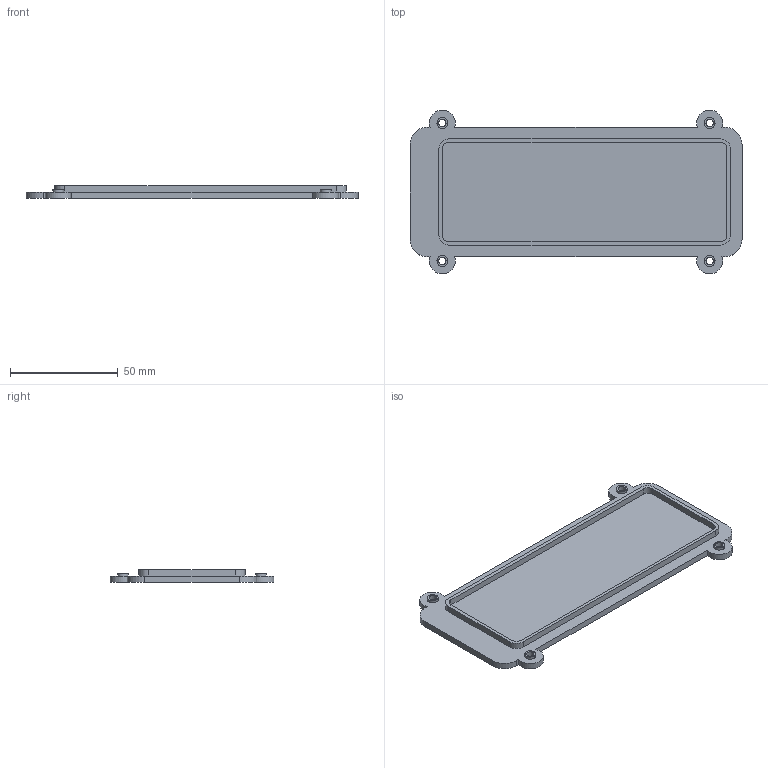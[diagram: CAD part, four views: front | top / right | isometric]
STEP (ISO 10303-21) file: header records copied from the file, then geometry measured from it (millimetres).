
FILE_DESCRIPTION(('Open CASCADE Model'),'2;1');
FILE_NAME('Open CASCADE Shape Model','2026-10-13T15:40:05',('Author'),( 'Open CASCADE'),'Open CASCADE STEP processor 7.9','Open CASCADE 7.9' ,'Unknown');
FILE_SCHEMA(('AUTOMOTIVE_DESIGN { 1 0 10303 214 1 1 1 1 }'));
Length unit declared in the file: millimetre
Products named in the file (1): Open CASCADE STEP translator 7.9 2
Bounding box: 154 x 76 x 6 mm (x, y, z)
Volume: 30166.3 mm3; surface area: 22710.5 mm2
Topology: 1 solids, 1 shells, 48 faces, 120 edges, 80 vertices
Faces by surface type: plane 24, cylinder 24
Full cylindrical faces by diameter (mm): 3.4 x4, 5 x4
Entity records: 3073 total; most frequent: CARTESIAN_POINT 643, DIRECTION 457, ORIENTED_EDGE 240, PCURVE 240, DEFINITIONAL_REPRESENTATION 240, LINE 236, VECTOR 236, EDGE_CURVE 120
